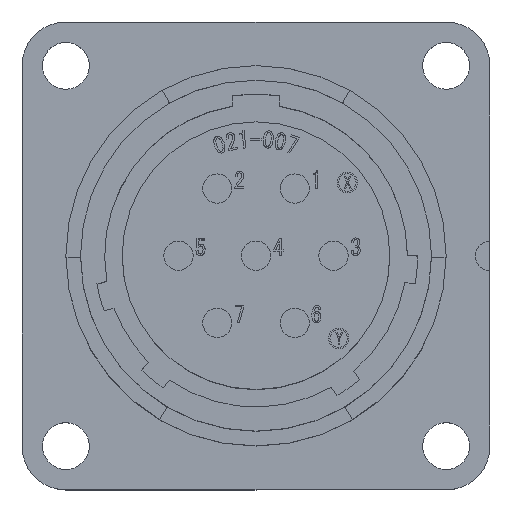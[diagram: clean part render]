
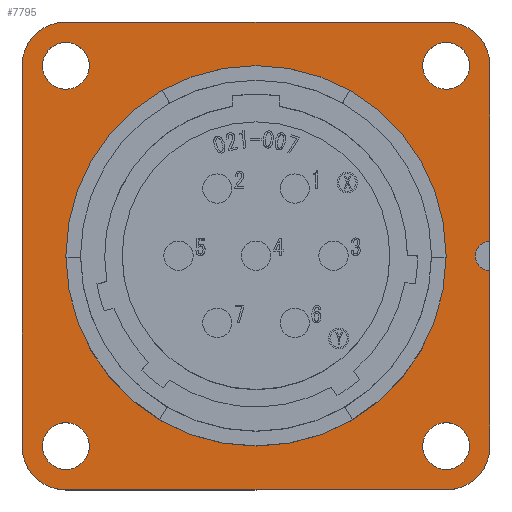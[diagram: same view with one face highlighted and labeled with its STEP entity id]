
A CAD part, top view. The second image highlights one B-rep face of the part: STEP entity #7795.
In plain terms, the highlighted planar face has unit normal (0, 0, 1).
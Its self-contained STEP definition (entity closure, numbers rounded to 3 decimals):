
#491 = ORIENTED_EDGE ( 'NONE', *, *, #12166, .T. ) ;
#813 = VERTEX_POINT ( 'NONE', #9557 ) ;
#952 = CARTESIAN_POINT ( 'NONE',  ( -14.6, 13., -10.5 ) ) ;
#1146 = CARTESIAN_POINT ( 'NONE',  ( 13., -16., -10.5 ) ) ;
#1169 = DIRECTION ( 'NONE',  ( 0., 0., 1. ) ) ;
#1186 = ORIENTED_EDGE ( 'NONE', *, *, #13097, .F. ) ;
#1263 = ORIENTED_EDGE ( 'NONE', *, *, #14633, .T. ) ;
#1552 = CARTESIAN_POINT ( 'NONE',  ( 0., 16., -10.5 ) ) ;
#1651 = VERTEX_POINT ( 'NONE', #2569 ) ;
#2172 = CARTESIAN_POINT ( 'NONE',  ( -16., 13., -10.5 ) ) ;
#2569 = CARTESIAN_POINT ( 'NONE',  ( 16., -1., -10.5 ) ) ;
#2736 = VERTEX_POINT ( 'NONE', #4491 ) ;
#3086 = LINE ( 'NONE', #17750, #5237 ) ;
#3186 = FACE_OUTER_BOUND ( 'NONE', #5764, .T. ) ;
#3654 = DIRECTION ( 'NONE',  ( -1., 0., 0. ) ) ;
#3788 = DIRECTION ( 'NONE',  ( 0., 0., -1. ) ) ;
#3965 = ORIENTED_EDGE ( 'NONE', *, *, #16924, .F. ) ;
#4132 = FACE_BOUND ( 'NONE', #24268, .T. ) ;
#4295 = EDGE_CURVE ( 'NONE', #17104, #17104, #9645, .T. ) ;
#4299 = DIRECTION ( 'NONE',  ( -1., 0., 0. ) ) ;
#4455 = CARTESIAN_POINT ( 'NONE',  ( 13., 13., -10.5 ) ) ;
#4471 = CARTESIAN_POINT ( 'NONE',  ( 13., 13., -10.5 ) ) ;
#4491 = CARTESIAN_POINT ( 'NONE',  ( 16., -13., -10.5 ) ) ;
#4573 = CARTESIAN_POINT ( 'NONE',  ( -13., 16., -10.5 ) ) ;
#4927 = DIRECTION ( 'NONE',  ( -1., 0., 0. ) ) ;
#5237 = VECTOR ( 'NONE', #19528, 1000. ) ;
#5764 = EDGE_LOOP ( 'NONE', ( #3965, #11468, #15162, #1186, #9220, #491, #6903, #11388, #20425, #24635 ) ) ;
#5865 = DIRECTION ( 'NONE',  ( 0., 0., -1. ) ) ;
#6211 = CARTESIAN_POINT ( 'NONE',  ( 16., 0., -10.5 ) ) ;
#6664 = CARTESIAN_POINT ( 'NONE',  ( 16., 0., -10.5 ) ) ;
#6806 = CARTESIAN_POINT ( 'NONE',  ( -13., 13., -10.5 ) ) ;
#6903 = ORIENTED_EDGE ( 'NONE', *, *, #10993, .F. ) ;
#6997 = EDGE_CURVE ( 'NONE', #19527, #19527, #24115, .T. ) ;
#7089 = ORIENTED_EDGE ( 'NONE', *, *, #4295, .T. ) ;
#7795 = ADVANCED_FACE ( 'NONE', ( #3186, #17158, #8959, #18648, #19262, #4132 ), #11770, .F. ) ;
#7927 = AXIS2_PLACEMENT_3D ( 'NONE', #22426, #1169, #16689 ) ;
#8367 = CARTESIAN_POINT ( 'NONE',  ( -13., -16., -10.5 ) ) ;
#8826 = AXIS2_PLACEMENT_3D ( 'NONE', #21547, #23504, #4299 ) ;
#8889 = DIRECTION ( 'NONE',  ( 0., -1., 0. ) ) ;
#8959 = FACE_BOUND ( 'NONE', #17073, .T. ) ;
#9220 = ORIENTED_EDGE ( 'NONE', *, *, #16559, .F. ) ;
#9409 = VECTOR ( 'NONE', #10112, 1000. ) ;
#9522 = VERTEX_POINT ( 'NONE', #18816 ) ;
#9550 = CARTESIAN_POINT ( 'NONE',  ( 0., 16., -10.5 ) ) ;
#9557 = CARTESIAN_POINT ( 'NONE',  ( 16., 13., -10.5 ) ) ;
#9620 = AXIS2_PLACEMENT_3D ( 'NONE', #4455, #18336, #16300 ) ;
#9645 = CIRCLE ( 'NONE', #12769, 1.6 ) ;
#9717 = CIRCLE ( 'NONE', #9620, 3. ) ;
#10112 = DIRECTION ( 'NONE',  ( 0., -1., 0. ) ) ;
#10212 = EDGE_LOOP ( 'NONE', ( #12450 ) ) ;
#10240 = EDGE_CURVE ( 'NONE', #18292, #2736, #19503, .T. ) ;
#10358 = AXIS2_PLACEMENT_3D ( 'NONE', #10615, #22430, #22351 ) ;
#10602 = EDGE_CURVE ( 'NONE', #9522, #9522, #17083, .T. ) ;
#10615 = CARTESIAN_POINT ( 'NONE',  ( -13., 13., -10.5 ) ) ;
#10736 = AXIS2_PLACEMENT_3D ( 'NONE', #6806, #20315, #4927 ) ;
#10889 = AXIS2_PLACEMENT_3D ( 'NONE', #4471, #19948, #14201 ) ;
#10993 = EDGE_CURVE ( 'NONE', #12222, #16334, #3086, .T. ) ;
#11004 = CIRCLE ( 'NONE', #10736, 3. ) ;
#11037 = CARTESIAN_POINT ( 'NONE',  ( -13., -13., -10.5 ) ) ;
#11358 = CARTESIAN_POINT ( 'NONE',  ( 13., 16., -10.5 ) ) ;
#11388 = ORIENTED_EDGE ( 'NONE', *, *, #16335, .T. ) ;
#11468 = ORIENTED_EDGE ( 'NONE', *, *, #22747, .F. ) ;
#11502 = DIRECTION ( 'NONE',  ( 1., 0., 0. ) ) ;
#11580 = CIRCLE ( 'NONE', #8826, 3. ) ;
#11770 = PLANE ( 'NONE',  #12469 ) ;
#12039 = CIRCLE ( 'NONE', #16015, 1. ) ;
#12166 = EDGE_CURVE ( 'NONE', #23026, #16334, #11004, .T. ) ;
#12222 = VERTEX_POINT ( 'NONE', #24460 ) ;
#12450 = ORIENTED_EDGE ( 'NONE', *, *, #22676, .T. ) ;
#12469 = AXIS2_PLACEMENT_3D ( 'NONE', #9550, #3788, #19276 ) ;
#12754 = VERTEX_POINT ( 'NONE', #11358 ) ;
#12769 = AXIS2_PLACEMENT_3D ( 'NONE', #11037, #14804, #8889 ) ;
#13097 = EDGE_CURVE ( 'NONE', #12754, #813, #9717, .T. ) ;
#13542 = CIRCLE ( 'NONE', #22021, 13. ) ;
#13570 = DIRECTION ( 'NONE',  ( 1., 0., 0. ) ) ;
#14201 = DIRECTION ( 'NONE',  ( 0., 1., 0. ) ) ;
#14326 = EDGE_LOOP ( 'NONE', ( #1263 ) ) ;
#14552 = LINE ( 'NONE', #6211, #9409 ) ;
#14633 = EDGE_CURVE ( 'NONE', #24329, #24329, #16665, .T. ) ;
#14804 = DIRECTION ( 'NONE',  ( 0., 0., -1. ) ) ;
#15162 = ORIENTED_EDGE ( 'NONE', *, *, #16407, .F. ) ;
#16015 = AXIS2_PLACEMENT_3D ( 'NONE', #25156, #21246, #13570 ) ;
#16300 = DIRECTION ( 'NONE',  ( -1., 0., 0. ) ) ;
#16307 = DIRECTION ( 'NONE',  ( 0., -1., 0. ) ) ;
#16334 = VERTEX_POINT ( 'NONE', #2172 ) ;
#16335 = EDGE_CURVE ( 'NONE', #12222, #18109, #11580, .T. ) ;
#16407 = EDGE_CURVE ( 'NONE', #813, #18701, #20928, .T. ) ;
#16559 = EDGE_CURVE ( 'NONE', #23026, #12754, #20294, .T. ) ;
#16665 = CIRCLE ( 'NONE', #22919, 1.6 ) ;
#16689 = DIRECTION ( 'NONE',  ( -1., 0., 0. ) ) ;
#16804 = CARTESIAN_POINT ( 'NONE',  ( 14.6, -13., -10.5 ) ) ;
#16907 = DIRECTION ( 'NONE',  ( -1., 0., 0. ) ) ;
#16924 = EDGE_CURVE ( 'NONE', #1651, #2736, #14552, .T. ) ;
#17073 = EDGE_LOOP ( 'NONE', ( #22141 ) ) ;
#17083 = CIRCLE ( 'NONE', #10889, 1.6 ) ;
#17104 = VERTEX_POINT ( 'NONE', #18330 ) ;
#17158 = FACE_BOUND ( 'NONE', #10212, .T. ) ;
#17210 = DIRECTION ( 'NONE',  ( 0., 0., -1. ) ) ;
#17464 = CARTESIAN_POINT ( 'NONE',  ( 13., -13., -10.5 ) ) ;
#17750 = CARTESIAN_POINT ( 'NONE',  ( -16., 0., -10.5 ) ) ;
#18109 = VERTEX_POINT ( 'NONE', #8367 ) ;
#18247 = CARTESIAN_POINT ( 'NONE',  ( 16., 1., -10.5 ) ) ;
#18292 = VERTEX_POINT ( 'NONE', #1146 ) ;
#18330 = CARTESIAN_POINT ( 'NONE',  ( -13., -14.6, -10.5 ) ) ;
#18336 = DIRECTION ( 'NONE',  ( 0., 0., -1. ) ) ;
#18648 = FACE_BOUND ( 'NONE', #20388, .T. ) ;
#18701 = VERTEX_POINT ( 'NONE', #18247 ) ;
#18740 = CARTESIAN_POINT ( 'NONE',  ( -13., 0., -10.5 ) ) ;
#18797 = VECTOR ( 'NONE', #11502, 1000. ) ;
#18816 = CARTESIAN_POINT ( 'NONE',  ( 13., 14.6, -10.5 ) ) ;
#19026 = LINE ( 'NONE', #24581, #22348 ) ;
#19234 = CARTESIAN_POINT ( 'NONE',  ( 0., 0., -10.5 ) ) ;
#19262 = FACE_BOUND ( 'NONE', #14326, .T. ) ;
#19276 = DIRECTION ( 'NONE',  ( -1., 0., 0. ) ) ;
#19503 = CIRCLE ( 'NONE', #7927, 3. ) ;
#19527 = VERTEX_POINT ( 'NONE', #952 ) ;
#19528 = DIRECTION ( 'NONE',  ( 0., 1., 0. ) ) ;
#19948 = DIRECTION ( 'NONE',  ( 0., 0., -1. ) ) ;
#20294 = LINE ( 'NONE', #1552, #18797 ) ;
#20315 = DIRECTION ( 'NONE',  ( 0., 0., 1. ) ) ;
#20388 = EDGE_LOOP ( 'NONE', ( #22252 ) ) ;
#20425 = ORIENTED_EDGE ( 'NONE', *, *, #20731, .F. ) ;
#20731 = EDGE_CURVE ( 'NONE', #18292, #18109, #19026, .T. ) ;
#20928 = LINE ( 'NONE', #6664, #21225 ) ;
#21171 = DIRECTION ( 'NONE',  ( 1., 0., 0. ) ) ;
#21225 = VECTOR ( 'NONE', #16307, 1000. ) ;
#21246 = DIRECTION ( 'NONE',  ( 0., 0., 1. ) ) ;
#21547 = CARTESIAN_POINT ( 'NONE',  ( -13., -13., -10.5 ) ) ;
#22021 = AXIS2_PLACEMENT_3D ( 'NONE', #19234, #17210, #3654 ) ;
#22141 = ORIENTED_EDGE ( 'NONE', *, *, #6997, .T. ) ;
#22252 = ORIENTED_EDGE ( 'NONE', *, *, #10602, .T. ) ;
#22348 = VECTOR ( 'NONE', #16907, 1000. ) ;
#22351 = DIRECTION ( 'NONE',  ( -1., 0., 0. ) ) ;
#22426 = CARTESIAN_POINT ( 'NONE',  ( 13., -13., -10.5 ) ) ;
#22430 = DIRECTION ( 'NONE',  ( 0., 0., -1. ) ) ;
#22676 = EDGE_CURVE ( 'NONE', #24012, #24012, #13542, .T. ) ;
#22747 = EDGE_CURVE ( 'NONE', #18701, #1651, #12039, .T. ) ;
#22919 = AXIS2_PLACEMENT_3D ( 'NONE', #17464, #5865, #21171 ) ;
#23026 = VERTEX_POINT ( 'NONE', #4573 ) ;
#23504 = DIRECTION ( 'NONE',  ( 0., 0., 1. ) ) ;
#24012 = VERTEX_POINT ( 'NONE', #18740 ) ;
#24115 = CIRCLE ( 'NONE', #10358, 1.6 ) ;
#24268 = EDGE_LOOP ( 'NONE', ( #7089 ) ) ;
#24329 = VERTEX_POINT ( 'NONE', #16804 ) ;
#24460 = CARTESIAN_POINT ( 'NONE',  ( -16., -13., -10.5 ) ) ;
#24581 = CARTESIAN_POINT ( 'NONE',  ( 0., -16., -10.5 ) ) ;
#24635 = ORIENTED_EDGE ( 'NONE', *, *, #10240, .T. ) ;
#25156 = CARTESIAN_POINT ( 'NONE',  ( 16., 0., -10.5 ) ) ;
